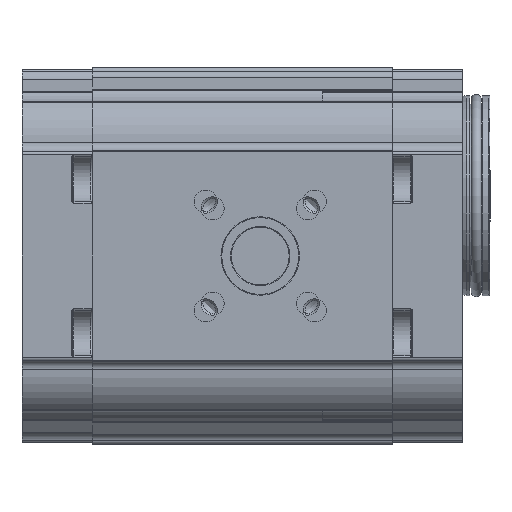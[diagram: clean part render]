
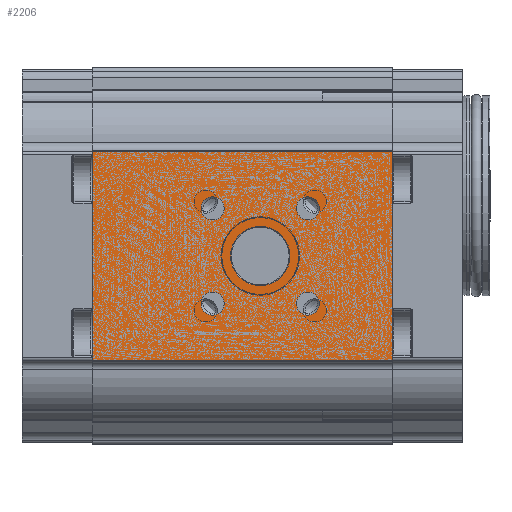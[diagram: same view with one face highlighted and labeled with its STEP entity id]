
A CAD part, left-side view. The second image highlights one B-rep face of the part: STEP entity #2206.
In plain terms, the highlighted planar face has unit normal (-1, 0, 0) as drawn and (1, 0, 0) by its records, which use the part's own axes.
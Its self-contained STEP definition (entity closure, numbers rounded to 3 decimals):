
#2206 = ADVANCED_FACE( '', ( #4986, #4987, #4988, #4989, #4990, #4991 ), #4992, .T. );
#4986 = FACE_BOUND( '', #9005, .T. );
#4987 = FACE_BOUND( '', #9006, .T. );
#4988 = FACE_BOUND( '', #9007, .T. );
#4989 = FACE_BOUND( '', #9008, .T. );
#4990 = FACE_BOUND( '', #9009, .T. );
#4991 = FACE_OUTER_BOUND( '', #9010, .T. );
#4992 = PLANE( '', #9011 );
#9005 = EDGE_LOOP( '', ( #16009 ) );
#9006 = EDGE_LOOP( '', ( #16010 ) );
#9007 = EDGE_LOOP( '', ( #16011 ) );
#9008 = EDGE_LOOP( '', ( #16012 ) );
#9009 = EDGE_LOOP( '', ( #16013 ) );
#9010 = EDGE_LOOP( '', ( #16014, #16015, #16016, #16017 ) );
#9011 = AXIS2_PLACEMENT_3D( '', #16018, #16019, #16020 );
#16009 = ORIENTED_EDGE( '', *, *, #23223, .T. );
#16010 = ORIENTED_EDGE( '', *, *, #22972, .T. );
#16011 = ORIENTED_EDGE( '', *, *, #21882, .T. );
#16012 = ORIENTED_EDGE( '', *, *, #23224, .T. );
#16013 = ORIENTED_EDGE( '', *, *, #23225, .T. );
#16014 = ORIENTED_EDGE( '', *, *, #23082, .F. );
#16015 = ORIENTED_EDGE( '', *, *, #23226, .F. );
#16016 = ORIENTED_EDGE( '', *, *, #23227, .T. );
#16017 = ORIENTED_EDGE( '', *, *, #23228, .T. );
#16018 = CARTESIAN_POINT( '', ( 43., 78., 27.048 ) );
#16019 = DIRECTION( '', ( 1., 0., 0. ) );
#16020 = DIRECTION( '', ( 0., 0., -1. ) );
#21882 = EDGE_CURVE( '', #26429, #26429, #26430, .F. );
#22972 = EDGE_CURVE( '', #28020, #28020, #28021, .F. );
#23082 = EDGE_CURVE( '', #28184, #28186, #28187, .T. );
#23223 = EDGE_CURVE( '', #28383, #28383, #28384, .F. );
#23224 = EDGE_CURVE( '', #28385, #28385, #28386, .F. );
#23225 = EDGE_CURVE( '', #28387, #28387, #28388, .F. );
#23226 = EDGE_CURVE( '', #28389, #28184, #28390, .T. );
#23227 = EDGE_CURVE( '', #28389, #28391, #28392, .T. );
#23228 = EDGE_CURVE( '', #28391, #28186, #28393, .T. );
#26429 = VERTEX_POINT( '', #33531 );
#26430 = CIRCLE( '', #33532, 3. );
#28020 = VERTEX_POINT( '', #36667 );
#28021 = CIRCLE( '', #36668, 3. );
#28184 = VERTEX_POINT( '', #36977 );
#28186 = VERTEX_POINT( '', #36979 );
#28187 = LINE( '', #36980, #36981 );
#28383 = VERTEX_POINT( '', #37355 );
#28384 = CIRCLE( '', #37356, 7.7 );
#28385 = VERTEX_POINT( '', #37357 );
#28386 = CIRCLE( '', #37358, 3. );
#28387 = VERTEX_POINT( '', #37359 );
#28388 = CIRCLE( '', #37360, 3. );
#28389 = VERTEX_POINT( '', #37361 );
#28390 = LINE( '', #37362, #37363 );
#28391 = VERTEX_POINT( '', #37364 );
#28392 = LINE( '', #37365, #37366 );
#28393 = LINE( '', #37367, #37368 );
#33531 = CARTESIAN_POINT( '', ( 43., 46.674, 9.374 ) );
#33532 = AXIS2_PLACEMENT_3D( '', #41319, #41320, #41321 );
#36667 = CARTESIAN_POINT( '', ( 43., 46.674, -15.374 ) );
#36668 = AXIS2_PLACEMENT_3D( '', #42545, #42546, #42547 );
#36977 = CARTESIAN_POINT( '', ( 43., 0., -27.048 ) );
#36979 = CARTESIAN_POINT( '', ( 43., 0., 27.048 ) );
#36980 = CARTESIAN_POINT( '', ( 43., 0., 27.048 ) );
#36981 = VECTOR( '', #42676, 1000. );
#37355 = CARTESIAN_POINT( '', ( 43., 34.3, -7.7 ) );
#37356 = AXIS2_PLACEMENT_3D( '', #42812, #42813, #42814 );
#37357 = CARTESIAN_POINT( '', ( 43., 21.926, 9.374 ) );
#37358 = AXIS2_PLACEMENT_3D( '', #42815, #42816, #42817 );
#37359 = CARTESIAN_POINT( '', ( 43., 21.926, -15.374 ) );
#37360 = AXIS2_PLACEMENT_3D( '', #42818, #42819, #42820 );
#37361 = CARTESIAN_POINT( '', ( 43., 78., -27.048 ) );
#37362 = CARTESIAN_POINT( '', ( 43., 78., -27.048 ) );
#37363 = VECTOR( '', #42821, 1000. );
#37364 = CARTESIAN_POINT( '', ( 43., 78., 27.048 ) );
#37365 = CARTESIAN_POINT( '', ( 43., 78., 27.048 ) );
#37366 = VECTOR( '', #42822, 1000. );
#37367 = CARTESIAN_POINT( '', ( 43., 78., 27.048 ) );
#37368 = VECTOR( '', #42823, 1000. );
#41319 = CARTESIAN_POINT( '', ( 43., 46.674, 12.374 ) );
#41320 = DIRECTION( '', ( 1., 0., 0. ) );
#41321 = DIRECTION( '', ( 0., 0., -1. ) );
#42545 = CARTESIAN_POINT( '', ( 43., 46.674, -12.374 ) );
#42546 = DIRECTION( '', ( 1., 0., 0. ) );
#42547 = DIRECTION( '', ( 0., 0., -1. ) );
#42676 = DIRECTION( '', ( 0., 0., 1. ) );
#42812 = CARTESIAN_POINT( '', ( 43., 34.3, 0. ) );
#42813 = DIRECTION( '', ( 1., 0., 0. ) );
#42814 = DIRECTION( '', ( 0., 0., -1. ) );
#42815 = CARTESIAN_POINT( '', ( 43., 21.926, 12.374 ) );
#42816 = DIRECTION( '', ( 1., 0., 0. ) );
#42817 = DIRECTION( '', ( 0., 0., -1. ) );
#42818 = CARTESIAN_POINT( '', ( 43., 21.926, -12.374 ) );
#42819 = DIRECTION( '', ( 1., 0., 0. ) );
#42820 = DIRECTION( '', ( 0., 0., -1. ) );
#42821 = DIRECTION( '', ( 0., -1., 0. ) );
#42822 = DIRECTION( '', ( 0., 0., 1. ) );
#42823 = DIRECTION( '', ( 0., -1., 0. ) );
